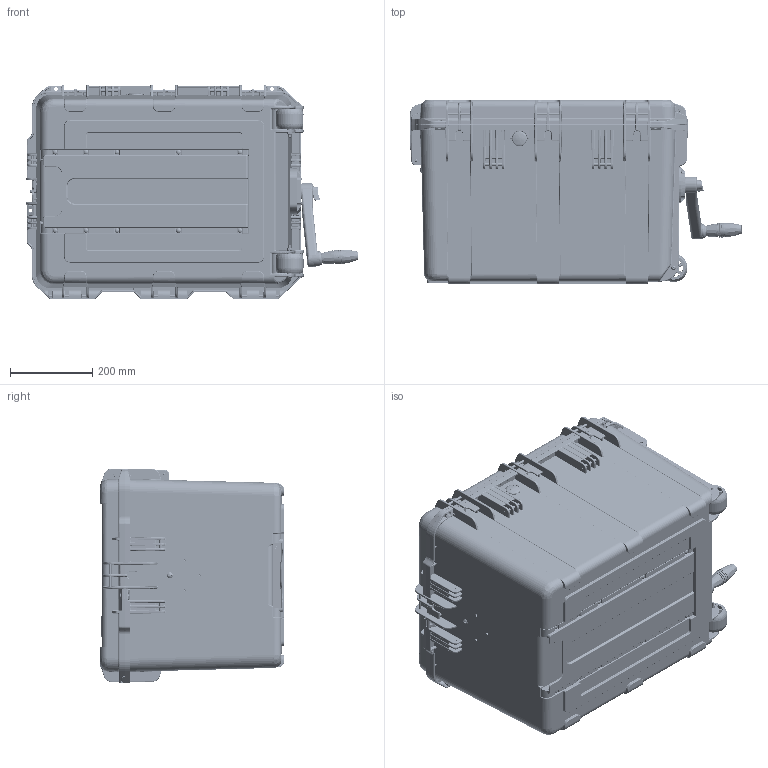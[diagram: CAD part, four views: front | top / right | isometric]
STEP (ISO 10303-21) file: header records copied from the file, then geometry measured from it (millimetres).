
FILE_DESCRIPTION (( 'STEP AP214' ), '1' );
FILE_NAME ('01-0453 Website (CLOSED).STEP', '2025-09-26T20:05:58', ( '' ), ( '' ), 'SwSTEP 2.0', 'SolidWorks 2022', '' );
FILE_SCHEMA (( 'AUTOMOTIVE_DESIGN' ));
Length unit declared in the file: inch
Products named in the file (1): 01-0453 Website (CLOSED)
Bounding box: 807.52 x 448.23 x 522.33 mm (x, y, z)
Surface area: 4675547 mm2 (no closed solid volume)
Topology: 0 solids, 106 shells, 12932 faces, 32200 edges, 19376 vertices
Faces by surface type: cylinder 4558, plane 3710, bspline 2770, cone 909, torus 523, sphere 462
Entity records: 744368 total; most frequent: CARTESIAN_POINT 296665, ORIENTED_EDGE 63328, DIRECTION 51785, EDGE_CURVE 31951, VERTEX_POINT 19376, AXIS2_PLACEMENT_3D 19278, EDGE_LOOP 13505, VECTOR 13229
